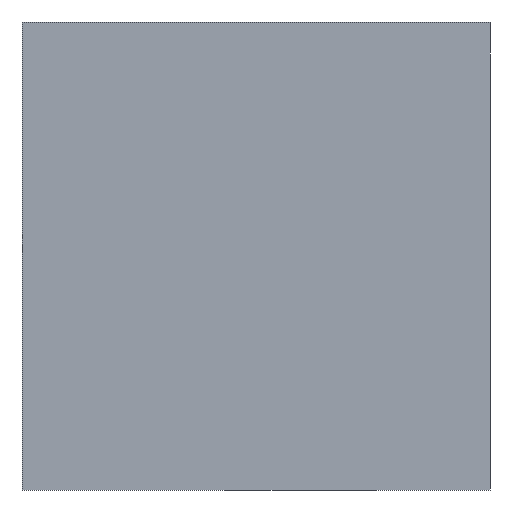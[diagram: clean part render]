
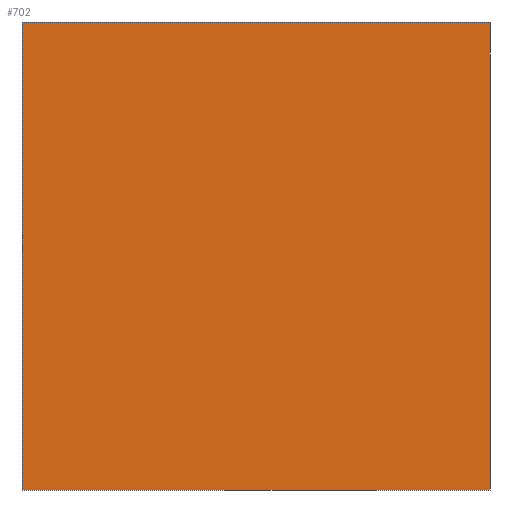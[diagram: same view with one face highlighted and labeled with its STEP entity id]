
A CAD part, front view. The second image highlights one B-rep face of the part: STEP entity #702.
In plain terms, the highlighted planar face has unit normal (0, -1, 0).
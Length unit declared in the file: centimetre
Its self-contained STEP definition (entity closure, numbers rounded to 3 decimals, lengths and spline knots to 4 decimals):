
#18 = LINE ( 'NONE', #828, #197 ) ;
#26 = VECTOR ( 'NONE', #710, 100. ) ;
#39 = ORIENTED_EDGE ( 'NONE', *, *, #181, .F. ) ;
#59 = PLANE ( 'NONE',  #529 ) ;
#62 = ORIENTED_EDGE ( 'NONE', *, *, #636, .F. ) ;
#95 = CARTESIAN_POINT ( 'NONE',  ( 0., 0., 0. ) ) ;
#96 = DIRECTION ( 'NONE',  ( 0., 0., -1. ) ) ;
#162 = EDGE_CURVE ( 'NONE', #276, #625, #757, .T. ) ;
#181 = EDGE_CURVE ( 'NONE', #276, #658, #916, .T. ) ;
#190 = CARTESIAN_POINT ( 'NONE',  ( 0., 0., 1000. ) ) ;
#197 = VECTOR ( 'NONE', #595, 100. ) ;
#226 = ORIENTED_EDGE ( 'NONE', *, *, #241, .T. ) ;
#241 = EDGE_CURVE ( 'NONE', #625, #282, #703, .T. ) ;
#276 = VERTEX_POINT ( 'NONE', #920 ) ;
#282 = VERTEX_POINT ( 'NONE', #419 ) ;
#283 = DIRECTION ( 'NONE',  ( 0., 0., 1. ) ) ;
#338 = DIRECTION ( 'NONE',  ( 1., 0., 0. ) ) ;
#344 = CARTESIAN_POINT ( 'NONE',  ( 0., 0., 1000. ) ) ;
#352 = FACE_OUTER_BOUND ( 'NONE', #738, .T. ) ;
#356 = DIRECTION ( 'NONE',  ( 0., 1., 0. ) ) ;
#419 = CARTESIAN_POINT ( 'NONE',  ( 1000., 0., 0. ) ) ;
#529 = AXIS2_PLACEMENT_3D ( 'NONE', #344, #356, #283 ) ;
#584 = VECTOR ( 'NONE', #338, 100. ) ;
#595 = DIRECTION ( 'NONE',  ( 0., 0., -1. ) ) ;
#625 = VERTEX_POINT ( 'NONE', #95 ) ;
#636 = EDGE_CURVE ( 'NONE', #658, #282, #18, .T. ) ;
#658 = VERTEX_POINT ( 'NONE', #679 ) ;
#679 = CARTESIAN_POINT ( 'NONE',  ( 1000., 0., 1000. ) ) ;
#702 = ADVANCED_FACE ( 'NONE', ( #352 ), #59, .F. ) ;
#703 = LINE ( 'NONE', #869, #26 ) ;
#710 = DIRECTION ( 'NONE',  ( 1., 0., 0. ) ) ;
#738 = EDGE_LOOP ( 'NONE', ( #226, #62, #39, #933 ) ) ;
#757 = LINE ( 'NONE', #190, #858 ) ;
#771 = CARTESIAN_POINT ( 'NONE',  ( 0., 0., 1000. ) ) ;
#828 = CARTESIAN_POINT ( 'NONE',  ( 1000., 0., 1000. ) ) ;
#858 = VECTOR ( 'NONE', #96, 100. ) ;
#869 = CARTESIAN_POINT ( 'NONE',  ( 0., 0., 0. ) ) ;
#916 = LINE ( 'NONE', #771, #584 ) ;
#920 = CARTESIAN_POINT ( 'NONE',  ( 0., 0., 1000. ) ) ;
#933 = ORIENTED_EDGE ( 'NONE', *, *, #162, .T. ) ;
